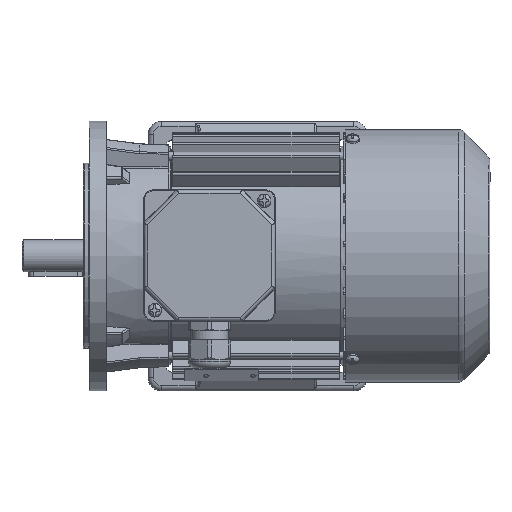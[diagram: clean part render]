
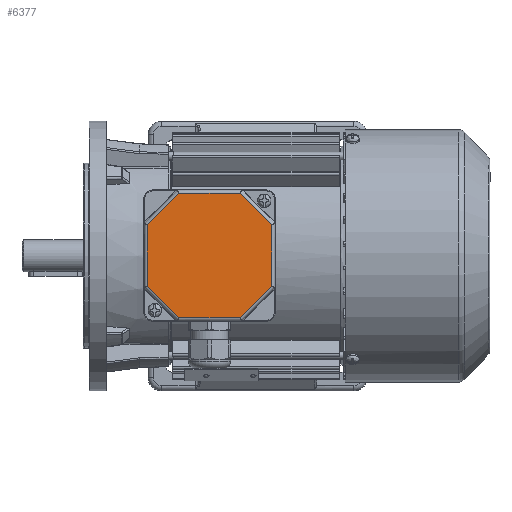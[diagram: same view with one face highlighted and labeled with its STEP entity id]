
A CAD part, top view. The second image highlights one B-rep face of the part: STEP entity #6377.
In plain terms, the highlighted planar face has unit normal (0, 0, 1).
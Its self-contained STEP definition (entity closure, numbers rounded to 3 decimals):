
#6377 = ADVANCED_FACE( '', ( #14184 ), #14185, .T. );
#14184 = FACE_OUTER_BOUND( '', #40604, .T. );
#14185 = PLANE( '', #40605 );
#40604 = EDGE_LOOP( '', ( #84389, #84390, #84391, #84392, #84393, #84394, #84395, #84396 ) );
#40605 = AXIS2_PLACEMENT_3D( '', #84397, #84398, #84399 );
#84389 = ORIENTED_EDGE( '', *, *, #105582, .T. );
#84390 = ORIENTED_EDGE( '', *, *, #105583, .T. );
#84391 = ORIENTED_EDGE( '', *, *, #103716, .T. );
#84392 = ORIENTED_EDGE( '', *, *, #102661, .T. );
#84393 = ORIENTED_EDGE( '', *, *, #105584, .T. );
#84394 = ORIENTED_EDGE( '', *, *, #105249, .T. );
#84395 = ORIENTED_EDGE( '', *, *, #104531, .T. );
#84396 = ORIENTED_EDGE( '', *, *, #105533, .T. );
#84397 = CARTESIAN_POINT( '', ( -39., 39., 12. ) );
#84398 = DIRECTION( '', ( 0., 0., 1. ) );
#84399 = DIRECTION( '', ( 1., 0., 0. ) );
#102661 = EDGE_CURVE( '', #116123, #116124, #116125, .T. );
#103716 = EDGE_CURVE( '', #111792, #116123, #117778, .F. );
#104531 = EDGE_CURVE( '', #114835, #117424, #119006, .F. );
#105249 = EDGE_CURVE( '', #120090, #114835, #120091, .T. );
#105533 = EDGE_CURVE( '', #117424, #120495, #120497, .T. );
#105582 = EDGE_CURVE( '', #120495, #120559, #120560, .F. );
#105583 = EDGE_CURVE( '', #120559, #111792, #120561, .T. );
#105584 = EDGE_CURVE( '', #116124, #120090, #120562, .F. );
#111792 = VERTEX_POINT( '', #132487 );
#114835 = VERTEX_POINT( '', #141947 );
#116123 = VERTEX_POINT( '', #145733 );
#116124 = VERTEX_POINT( '', #145734 );
#116125 = LINE( '', #145735, #145736 );
#117424 = VERTEX_POINT( '', #150186 );
#117778 = LINE( '', #151511, #151512 );
#119006 = LINE( '', #156103, #156104 );
#120090 = VERTEX_POINT( '', #158837 );
#120091 = LINE( '', #158838, #158839 );
#120495 = VERTEX_POINT( '', #160658 );
#120497 = LINE( '', #160660, #160661 );
#120559 = VERTEX_POINT( '', #160802 );
#120560 = LINE( '', #160803, #160804 );
#120561 = LINE( '', #160805, #160806 );
#120562 = LINE( '', #160807, #160808 );
#132487 = CARTESIAN_POINT( '', ( 18.255, 36.825, 12. ) );
#141947 = CARTESIAN_POINT( '', ( -18.255, -36.825, 12. ) );
#145733 = CARTESIAN_POINT( '', ( -18.255, 36.825, 12. ) );
#145734 = CARTESIAN_POINT( '', ( -36.825, 18.255, 12. ) );
#145735 = CARTESIAN_POINT( '', ( -37.401, 17.679, 12. ) );
#145736 = VECTOR( '', #181593, 1000. );
#150186 = CARTESIAN_POINT( '', ( 18.255, -36.825, 12. ) );
#151511 = CARTESIAN_POINT( '', ( -19.069, 36.825, 12. ) );
#151512 = VECTOR( '', #182738, 1000. );
#156103 = CARTESIAN_POINT( '', ( 19.069, -36.825, 12. ) );
#156104 = VECTOR( '', #183631, 1000. );
#158837 = CARTESIAN_POINT( '', ( -36.825, -18.255, 12. ) );
#158838 = CARTESIAN_POINT( '', ( -17.679, -37.401, 12. ) );
#158839 = VECTOR( '', #184773, 1000. );
#160658 = CARTESIAN_POINT( '', ( 36.825, -18.255, 12. ) );
#160660 = CARTESIAN_POINT( '', ( 37.401, -17.679, 12. ) );
#160661 = VECTOR( '', #185074, 1000. );
#160802 = CARTESIAN_POINT( '', ( 36.825, 18.255, 12. ) );
#160803 = CARTESIAN_POINT( '', ( 36.825, 19.069, 12. ) );
#160804 = VECTOR( '', #185130, 1000. );
#160805 = CARTESIAN_POINT( '', ( 17.679, 37.401, 12. ) );
#160806 = VECTOR( '', #185131, 1000. );
#160807 = CARTESIAN_POINT( '', ( -36.825, -19.069, 12. ) );
#160808 = VECTOR( '', #185132, 1000. );
#181593 = DIRECTION( '', ( -0.707, -0.707, 0. ) );
#182738 = DIRECTION( '', ( 1., 0., 0. ) );
#183631 = DIRECTION( '', ( -1., 0., 0. ) );
#184773 = DIRECTION( '', ( 0.707, -0.707, 0. ) );
#185074 = DIRECTION( '', ( 0.707, 0.707, 0. ) );
#185130 = DIRECTION( '', ( 0., -1., 0. ) );
#185131 = DIRECTION( '', ( -0.707, 0.707, 0. ) );
#185132 = DIRECTION( '', ( 0., 1., 0. ) );
